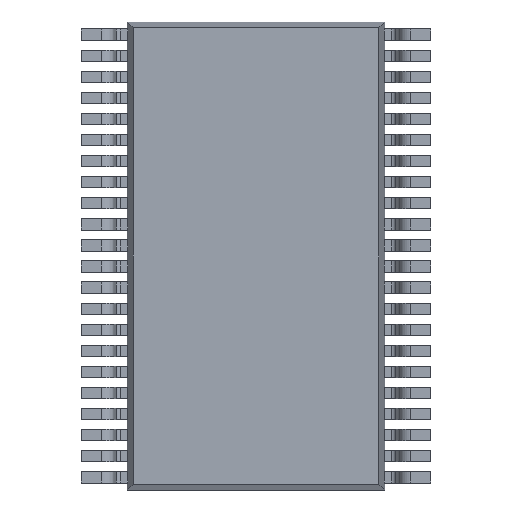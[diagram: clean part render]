
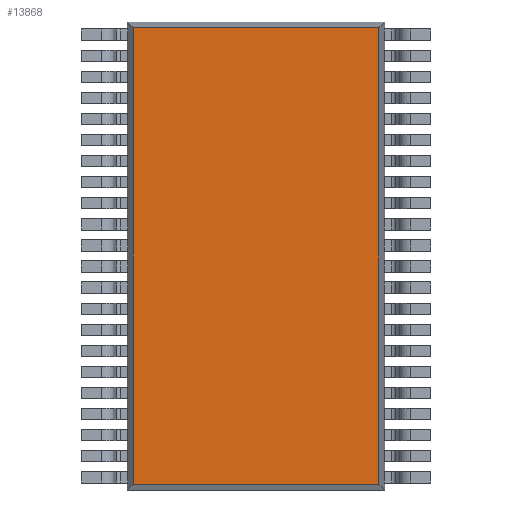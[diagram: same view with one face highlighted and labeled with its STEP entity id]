
A CAD part, front view. The second image highlights one B-rep face of the part: STEP entity #13868.
In plain terms, the highlighted planar face has unit normal (0, -1, 0).
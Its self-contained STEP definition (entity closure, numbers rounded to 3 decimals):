
#7714 = LINE ( 'NONE', #8499, #7726 ) ;
#7721 = LINE ( 'NONE', #8503, #7724 ) ;
#7724 = VECTOR ( 'NONE', #8505, 1000. ) ;
#7726 = VECTOR ( 'NONE', #8506, 1000. ) ;
#8499 = CARTESIAN_POINT ( 'NONE',  ( 3.05, 0.1, 5.409 ) ) ;
#8503 = CARTESIAN_POINT ( 'NONE',  ( 3.05, 0.1, -5.409 ) ) ;
#8505 = DIRECTION ( 'NONE',  ( 1., 0., 0. ) ) ;
#8506 = DIRECTION ( 'NONE',  ( -1., 0., 0. ) ) ;
#9322 = LINE ( 'NONE', #10462, #9344 ) ;
#9344 = VECTOR ( 'NONE', #10481, 1000. ) ;
#9355 = LINE ( 'NONE', #10485, #9360 ) ;
#9360 = VECTOR ( 'NONE', #10496, 1000. ) ;
#10462 = CARTESIAN_POINT ( 'NONE',  ( -2.909, 0.1, 5.55 ) ) ;
#10481 = DIRECTION ( 'NONE',  ( 0., 0., -1. ) ) ;
#10485 = CARTESIAN_POINT ( 'NONE',  ( 2.909, 0.1, 5.55 ) ) ;
#10496 = DIRECTION ( 'NONE',  ( 0., 0., 1. ) ) ;
#12524 = CARTESIAN_POINT ( 'NONE',  ( -2.909, 0.1, -5.409 ) ) ;
#12529 = CARTESIAN_POINT ( 'NONE',  ( -2.909, 0.1, 5.409 ) ) ;
#12532 = CARTESIAN_POINT ( 'NONE',  ( 2.909, 0.1, -5.409 ) ) ;
#12537 = CARTESIAN_POINT ( 'NONE',  ( 2.909, 0.1, 5.409 ) ) ;
#13522 = EDGE_LOOP ( 'NONE', ( #16725, #16726, #16727, #16728 ) ) ;
#13868 = ADVANCED_FACE ( 'NONE', ( #27981 ), #27135, .F. ) ;
#14918 = EDGE_CURVE ( 'NONE', #20468, #20476, #7721, .T. ) ;
#14919 = EDGE_CURVE ( 'NONE', #20481, #20473, #7714, .T. ) ;
#15304 = EDGE_CURVE ( 'NONE', #20473, #20468, #9322, .T. ) ;
#15312 = EDGE_CURVE ( 'NONE', #20476, #20481, #9355, .T. ) ;
#16725 = ORIENTED_EDGE ( 'NONE', *, *, #15304, .T. ) ;
#16726 = ORIENTED_EDGE ( 'NONE', *, *, #14918, .T. ) ;
#16727 = ORIENTED_EDGE ( 'NONE', *, *, #15312, .T. ) ;
#16728 = ORIENTED_EDGE ( 'NONE', *, *, #14919, .T. ) ;
#20468 = VERTEX_POINT ( 'NONE', #12524 ) ;
#20473 = VERTEX_POINT ( 'NONE', #12529 ) ;
#20476 = VERTEX_POINT ( 'NONE', #12532 ) ;
#20481 = VERTEX_POINT ( 'NONE', #12537 ) ;
#24032 = AXIS2_PLACEMENT_3D ( 'NONE', #27136, #27141, #27142 ) ;
#27135 = PLANE ( 'NONE',  #24032 ) ;
#27136 = CARTESIAN_POINT ( 'NONE',  ( 0., 0.1, 0. ) ) ;
#27141 = DIRECTION ( 'NONE',  ( 0., 1., 0. ) ) ;
#27142 = DIRECTION ( 'NONE',  ( 0., 0., 1. ) ) ;
#27981 = FACE_OUTER_BOUND ( 'NONE', #13522, .T. ) ;
